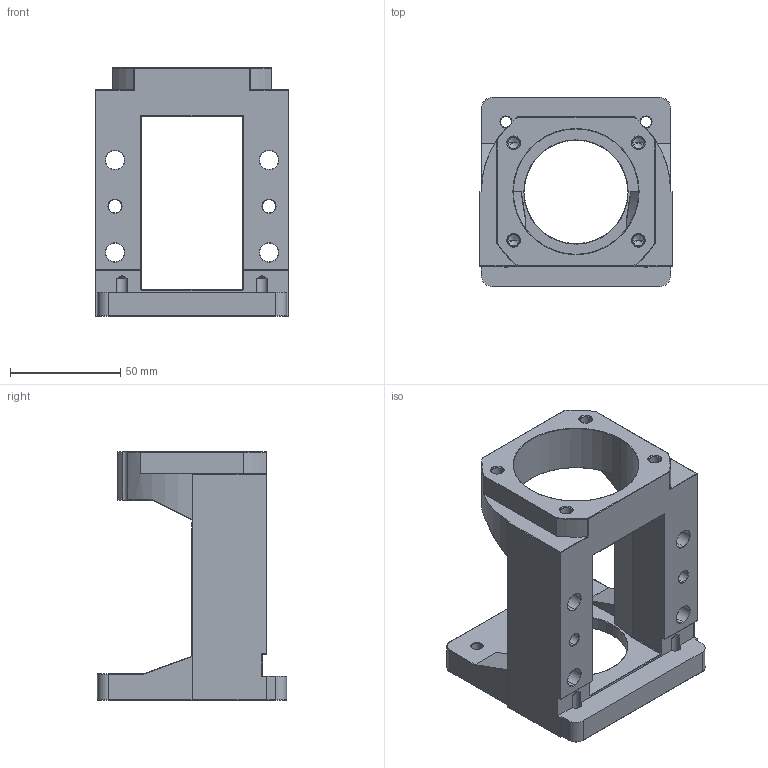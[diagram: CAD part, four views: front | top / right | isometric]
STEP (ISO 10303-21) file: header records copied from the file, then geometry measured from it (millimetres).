
FILE_DESCRIPTION (( 'STEP AP203' ), '1' );
FILE_NAME ('M80E-FKA20-A 无华标.STEP', '2020-06-11T01:51:34', ( '微软用户' ), ( '微软中国' ), 'SwSTEP 2.0', 'SolidWorks 2016', '' );
FILE_SCHEMA (( 'CONFIG_CONTROL_DESIGN' ));
Length unit declared in the file: millimetre
Products named in the file (1): M80E-FKA20-A 拸貌梓
Bounding box: 88 x 86 x 113 mm (x, y, z)
Volume: 212285.9 mm3; surface area: 54645.8 mm2
Topology: 1 solids, 1 shells, 275 faces, 673 edges, 384 vertices
Faces by surface type: cylinder 124, torus 59, plane 46, cone 30, sphere 10, bspline 6
Entity records: 8189 total; most frequent: CARTESIAN_POINT 1733, DIRECTION 1422, ORIENTED_EDGE 1302, EDGE_CURVE 651, AXIS2_PLACEMENT_3D 575, VERTEX_POINT 384, EDGE_LOOP 307, CIRCLE 305
